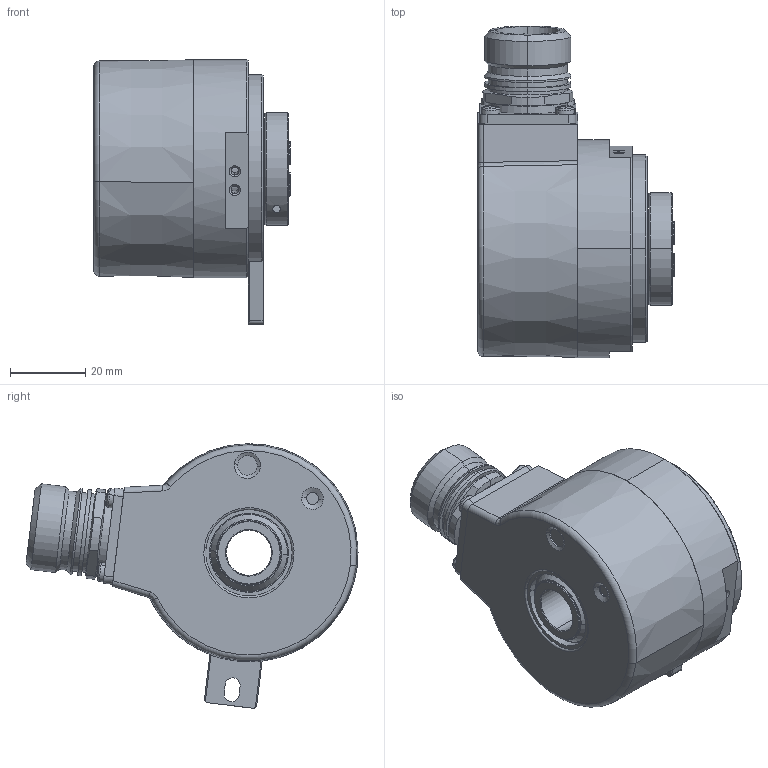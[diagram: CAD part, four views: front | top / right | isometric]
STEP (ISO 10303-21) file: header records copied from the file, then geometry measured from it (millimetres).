
FILE_DESCRIPTION (( 'STEP AP214' ), '1' );
FILE_NAME ('5873.1424.XXXX.STEP', '2008-05-29T05:43:48', ( 'admin' ), ( 'Fritz Kübler GmbH' ), 'SwSTEP 2.0', 'SolidWorks 2007', '' );
FILE_SCHEMA (( 'AUTOMOTIVE_DESIGN' ));
Length unit declared in the file: millimetre
Products named in the file (1): 5873.1424.XXXX
Bounding box: 52.2 x 88.28 x 70.33 mm (x, y, z)
Surface area: 27658.1 mm2 (no closed solid volume)
Topology: 0 solids, 34 shells, 433 faces, 1209 edges, 795 vertices
Faces by surface type: cylinder 172, plane 139, cone 64, sphere 32, torus 22, bspline 4
Entity records: 19027 total; most frequent: CARTESIAN_POINT 2931, DIRECTION 2602, ORIENTED_EDGE 2110, EDGE_CURVE 1185, AXIS2_PLACEMENT_3D 1056, VERTEX_POINT 795, CIRCLE 626, EDGE_LOOP 504
